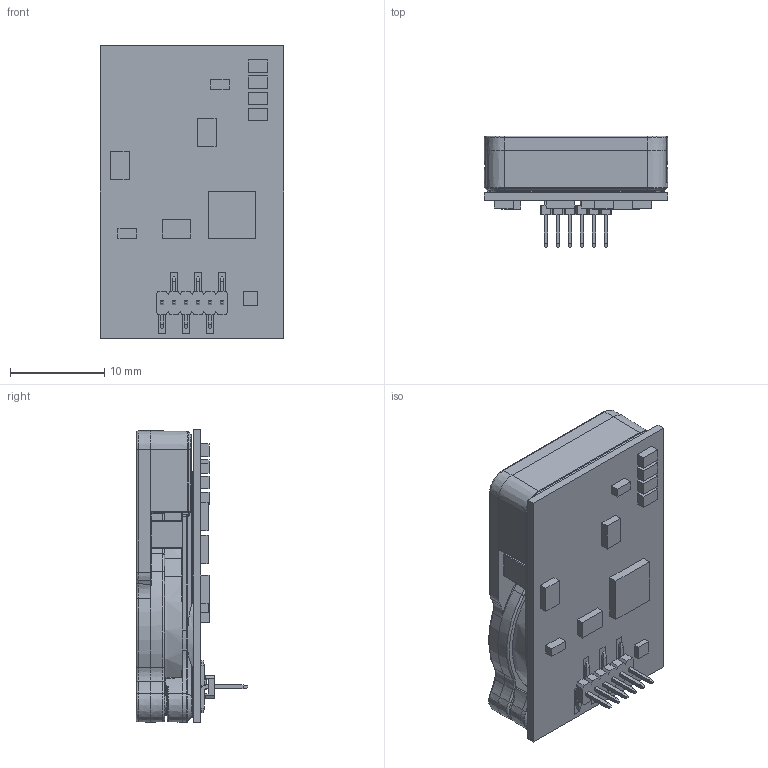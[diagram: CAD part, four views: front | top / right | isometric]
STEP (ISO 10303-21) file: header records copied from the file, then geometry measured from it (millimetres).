
FILE_DESCRIPTION (( 'STEP AP214' ), '1' );
FILE_NAME ('COZIR-LP.STEP', '2017-10-24T08:23:08', ( '' ), ( '' ), 'SwSTEP 2.0', 'SolidWorks 2015', '' );
FILE_SCHEMA (( 'AUTOMOTIVE_DESIGN' ));
Length unit declared in the file: millimetre
Products named in the file (1): COZIR-LP
Bounding box: 19.5 x 11.81 x 31 mm (x, y, z)
Volume: 3329 mm3; surface area: 5819.9 mm2
Topology: 29 solids, 29 shells, 1418 faces, 3397 edges, 2043 vertices
Faces by surface type: plane 673, cylinder 259, bspline 169, torus 142, cone 106, sphere 69
Full cylindrical faces by diameter (mm): 1.583 x4, 2.4 x2, 18 x1
Entity records: 59328 total; most frequent: CARTESIAN_POINT 12560, ORIENTED_EDGE 6592, DIRECTION 6155, EDGE_CURVE 3296, AXIS2_PLACEMENT_3D 2130, VERTEX_POINT 2017, VECTOR 1895, LINE 1895
